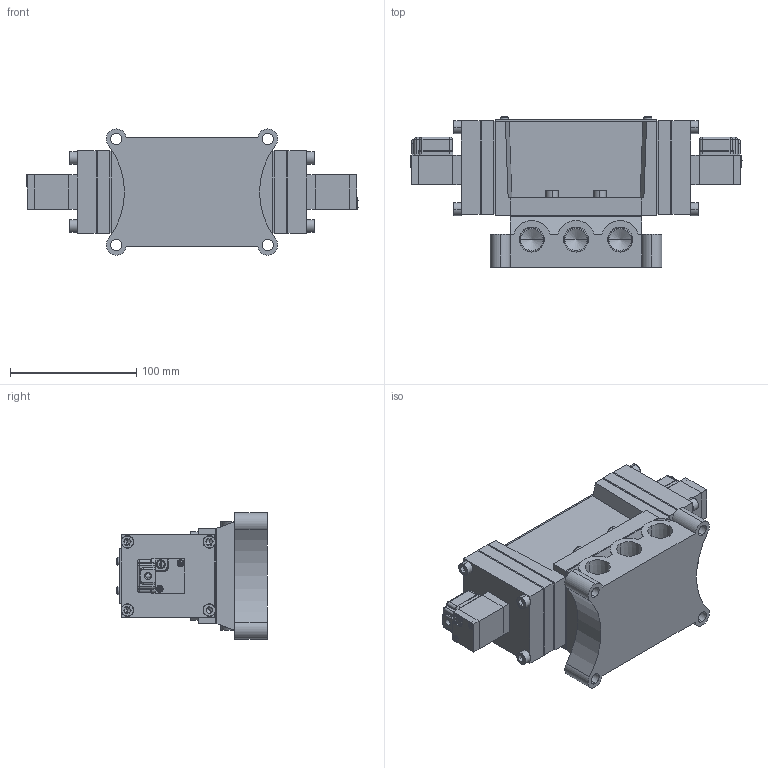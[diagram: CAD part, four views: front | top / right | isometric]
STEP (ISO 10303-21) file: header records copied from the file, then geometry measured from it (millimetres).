
FILE_DESCRIPTION (( 'STEP AP203' ), '1' );
FILE_NAME ('PMD(E)3415#-04-#G#.STEP', '2016-03-09T05:54:03', ( 'Sam Lin' ), ( '' ), 'SwSTEP 2.0', 'SolidWorks 2013', '' );
FILE_SCHEMA (( 'CONFIG_CONTROL_DESIGN' ));
Length unit declared in the file: metre
Products named in the file (17): PM06-C4; PMS2415-4; PM06-C6-M3; PM15-MARK-24; PM06-C5; PMS2415-5; PM06-G1; PM06-C3-M4; PMD3415-1; ISO 4762 M6 x 12; PMD(E)3415#-04-#G#; PMS2415-7; PMS2415-1; PMS2415-6; PMS2415-2; PM06-C1; PMS2415-3
Assembly tree (43 placements, depth 2):
  PMD(E)3415#-04-#G#
    PMS2415-1
    PMS2415-2
    PMS2415-3  x4
    PMS2415-4  x2
    PM15-MARK-24
    PMS2415-5
    PM06-C3-M4  x4
    ISO 4762 M6 x 12  x12
    PMS2415-7  x2
    PMS2415-6
    PM06-C1  x2
    PM06-C4  x2
    PM06-C6-M3  x4
    PM06-C5  x2
    PM06-G1  x2
    PMD3415-1  x2
Bounding box: 263 x 119.55 x 99.99 mm (x, y, z)
Volume: 1194078.8 mm3; surface area: 254195.5 mm2
Topology: 49 solids, 49 shells, 1123 faces, 2638 edges, 1613 vertices
Faces by surface type: plane 596, cylinder 249, cone 142, bspline 128, torus 8
Entity records: 17292 total; most frequent: CARTESIAN_POINT 3889, DIRECTION 2297, ORIENTED_EDGE 2206, EDGE_CURVE 1103, AXIS2_PLACEMENT_3D 822, VERTEX_POINT 708, VECTOR 653, LINE 653
